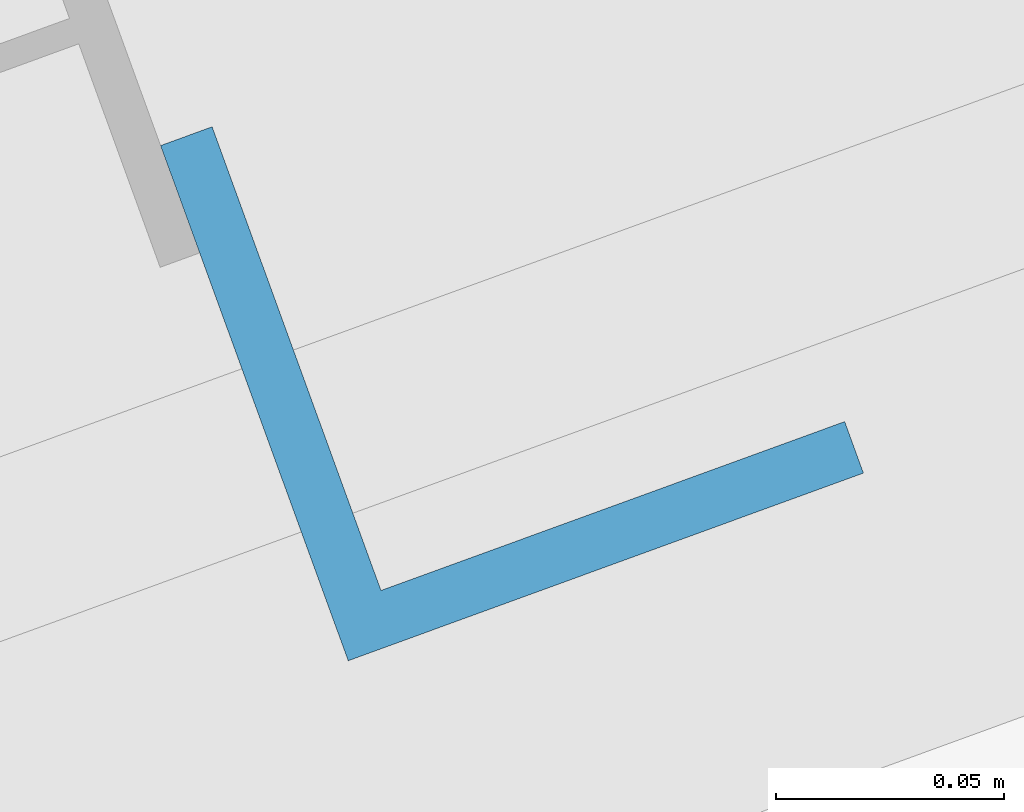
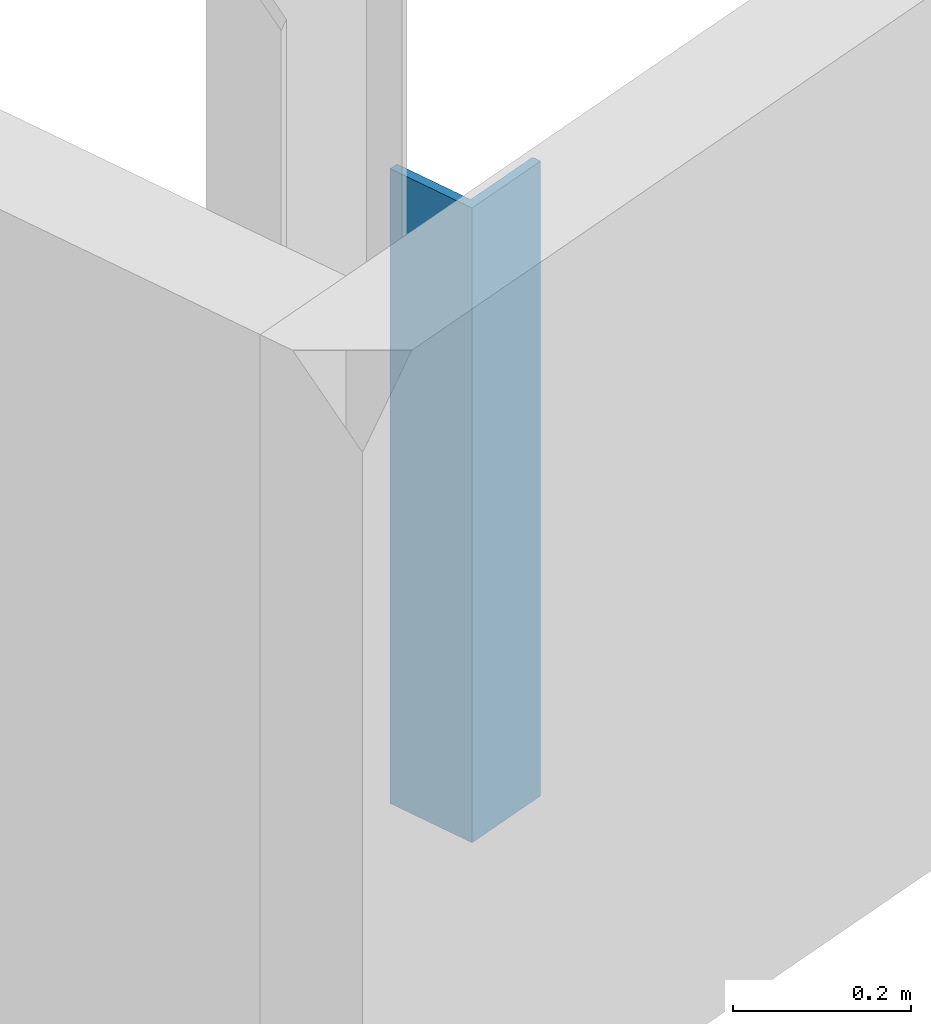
# One storey, part 6 of 20: 1 column, 1 element without a shape of its own.
"""IFC4 building model written with IfcOpenShell, lengths in millimetres."""

from ifc_helpers import new_model, si_unit, direction, frame, origin_with_axes, place, context, subcontext, project, spatial, line, indexed_curve, outline, extrude, material, element, aggregate, save


model = new_model("IFC4")

# Units and contexts
model_context = context("Model", 3, precision=0.2, world=frame((203566.813, 116264.779, 0.0), z_axis=(0.0, 0.0, 1.0), x_axis=(1.0, 0.0, 0.0)), true_north=direction((-0.9396138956, -0.3422363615)))
body_context = subcontext(model_context, "Body", "Model", "MODEL_VIEW")
ifc_project = project(units=[si_unit("LENGTHUNIT", "METRE", prefix="MILLI"), si_unit("AREAUNIT", "SQUARE_METRE"), si_unit("VOLUMEUNIT", "CUBIC_METRE"), si_unit("MASSUNIT", "GRAM", prefix="KILO"), si_unit("TIMEUNIT", "SECOND"), si_unit("PLANEANGLEUNIT", "RADIAN"), si_unit("SOLIDANGLEUNIT", "STERADIAN"), si_unit("THERMODYNAMICTEMPERATUREUNIT", "DEGREE_CELSIUS"), si_unit("LUMINOUSINTENSITYUNIT", "LUMEN")], contexts=[model_context])

# Site, building, storey
site_placement = place(None, origin_with_axes())
site = spatial("IfcSite", under=ifc_project, at=site_placement, Name="Nobelprojektet", CompositionType="ELEMENT")
building_placement = place(site_placement, origin_with_axes())
building = spatial("IfcBuilding", under=site, at=building_placement, Name="Hall B", CompositionType="ELEMENT")
storey_placement = place(building_placement, frame((0.0, 0.0, 1000.0), z_axis=(0.0, 0.0, 1.0), x_axis=(1.0, 0.0, 0.0)))
storey = spatial("IfcBuildingStorey", under=building, at=storey_placement, Name="Plan_1", CompositionType="ELEMENT", Elevation=1000.0)

# Assembly, column
assembly_placement = place(storey_placement, frame((150755.51843, 113057.21441, 132179.99997), z_axis=(-0.3422371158, 0.9396136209, 1.3e-09), x_axis=(0.0, 0.0, 1.0)))
assembly = element("IfcElementAssembly", 1, at=assembly_placement, inside=storey, Name="BEFINTLIG", PredefinedType="NOTDEFINED")
ifc_material = material(Name="S355J2", Category="STEEL")
column_placement = place(assembly_placement, origin_with_axes())
column = element("IfcColumn", 2, at=column_placement, material=ifc_material, Name="BEFINTLIG", PredefinedType="NOTDEFINED", context=body_context, shape_type="SolidModel", body=[
    extrude(outline(indexed_curve([(-60.0, -60.0), (60.0, -60.0), (60.0, -48.0), (-48.0, -48.0), (-48.0, 60.0), (-60.0, 60.0)], segments=[line(1, 2, 3, 4, 5, 6, 1)])), frame((0.0, 0.0, 0.0), z_axis=(-1.0, 0.0, 0.0), x_axis=(0.0, 0.0, 1.0)), (0.0, 0.0, -1.0), 870.0),
])
aggregate(assembly, [column])

save(model, "model.ifc")
